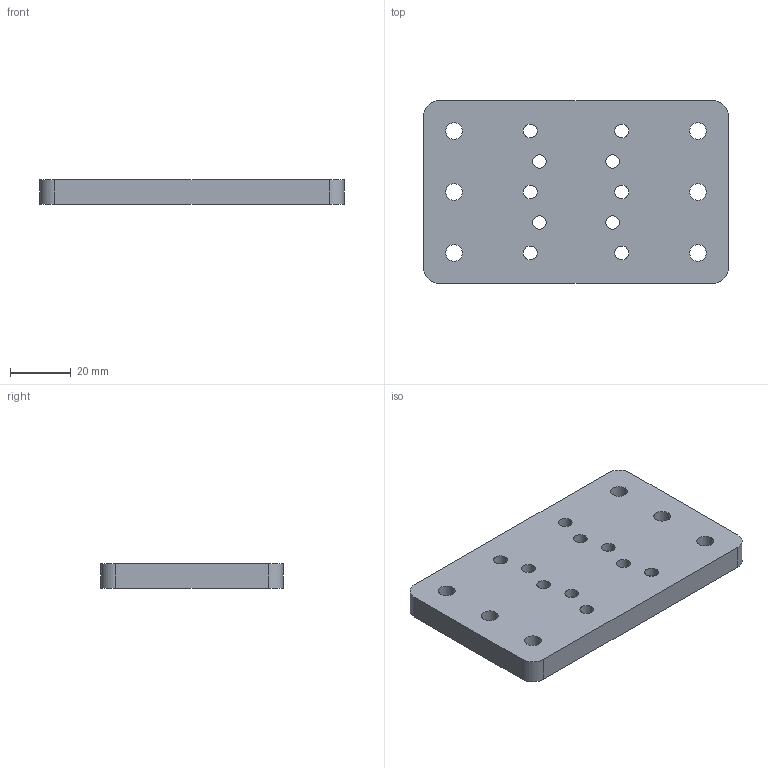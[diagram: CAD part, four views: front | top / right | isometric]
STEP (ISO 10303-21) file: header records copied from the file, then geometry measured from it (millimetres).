
FILE_DESCRIPTION(('CATIA V5 STEP Exchange'),'2;1');
FILE_NAME('D:\姚明阳\1、工装图纸\工作3、激光测距测试机箱\测试机箱\定位转接件\HGdingwei.stp','2022-12-27T07:44:25+00:00',('none'),('none'),'CATIA Version 5 Release 21 GA (IN-10)','CATIA V5 STEP AP214','none');
FILE_SCHEMA(('AUTOMOTIVE_DESIGN { 1 0 10303 214 1 1 1 1 }'));
Length unit declared in the file: millimetre
Products named in the file (1): 导轨固定板
Bounding box: 100 x 60 x 8 mm (x, y, z)
Volume: 43373.5 mm3; surface area: 16433.9 mm2
Topology: 1 solids, 1 shells, 72 faces, 180 edges, 120 vertices
Faces by surface type: cylinder 56, plane 16
Entity records: 2015 total; most frequent: ORIENTED_EDGE 360, CARTESIAN_POINT 338, DIRECTION 254, EDGE_CURVE 180, AXIS2_PLACEMENT_3D 150, VERTEX_POINT 120, EDGE_LOOP 114, CIRCLE 112
